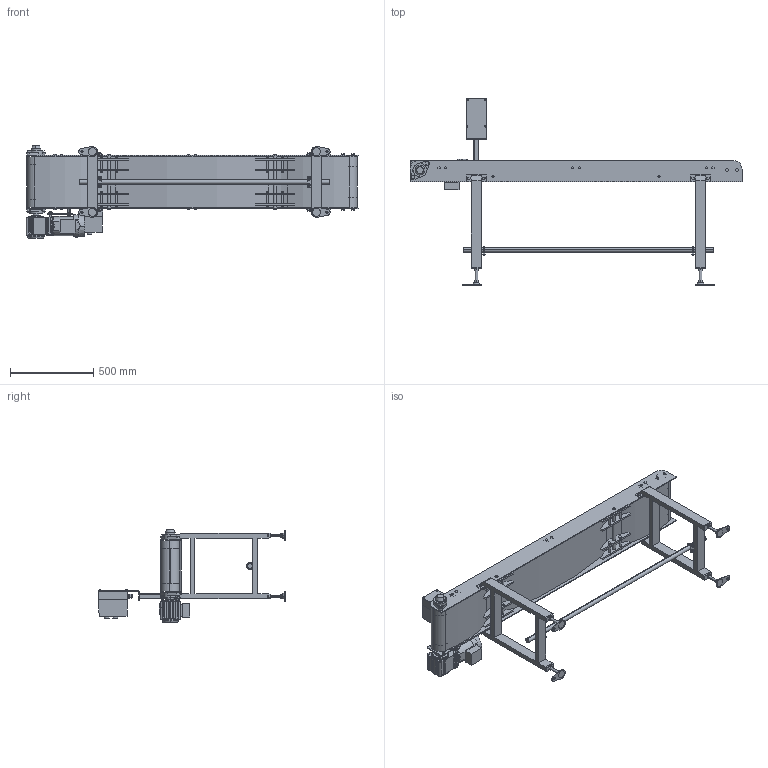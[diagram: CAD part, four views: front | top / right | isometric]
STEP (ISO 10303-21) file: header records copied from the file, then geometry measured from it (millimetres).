
FILE_DESCRIPTION (( 'STEP AP214' ), '1' );
FILE_NAME ('FP1-340-300-200-K-50.STEP', '2024-02-16T00:08:18', ( '' ), ( '' ), 'SwSTEP 2.0', 'SolidWorks 2017', '' );
FILE_SCHEMA (( 'AUTOMOTIVE_DESIGN' ));
Length unit declared in the file: millimetre
Products named in the file (1): FP1-340-300-200-K-50
Bounding box: 2000 x 1126 x 559 mm (x, y, z)
Volume: 88681147 mm3; surface area: 4937826.4 mm2
Topology: 49 solids, 50 shells, 1965 faces, 4626 edges, 2988 vertices
Faces by surface type: plane 1333, cylinder 526, cone 76, torus 26, bspline 4
Entity records: 57744 total; most frequent: CARTESIAN_POINT 10626, DIRECTION 9783, ORIENTED_EDGE 9252, EDGE_CURVE 4626, AXIS2_PLACEMENT_3D 3309, LINE 3165, VECTOR 3165, VERTEX_POINT 2988
